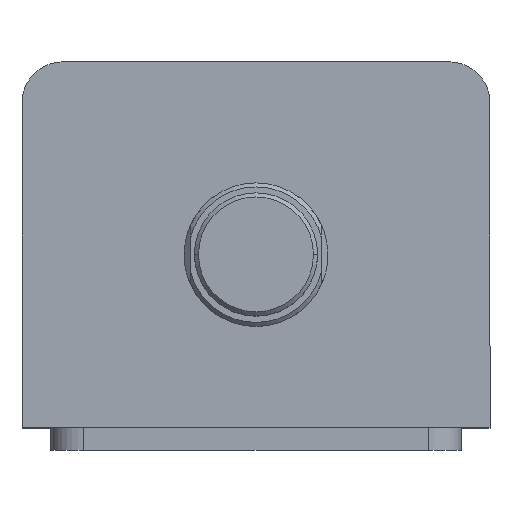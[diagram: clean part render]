
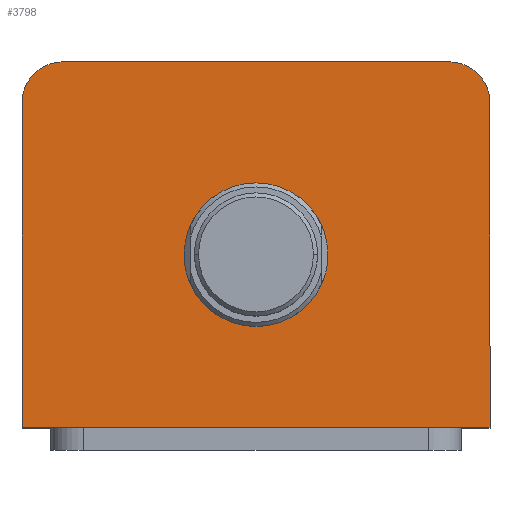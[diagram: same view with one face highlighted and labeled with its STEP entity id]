
A CAD part, top view. The second image highlights one B-rep face of the part: STEP entity #3798.
In plain terms, the highlighted planar face has unit normal (0, 0, 1).
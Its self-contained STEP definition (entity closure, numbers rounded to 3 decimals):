
#350 = CARTESIAN_POINT ( 'NONE',  ( 57., 34.5, 152. ) ) ;
#353 = CARTESIAN_POINT ( 'NONE',  ( -57., 34.5, 152. ) ) ;
#858 = ORIENTED_EDGE ( 'NONE', *, *, #3613, .F. ) ;
#859 = ORIENTED_EDGE ( 'NONE', *, *, #3611, .F. ) ;
#860 = ORIENTED_EDGE ( 'NONE', *, *, #3639, .T. ) ;
#861 = ORIENTED_EDGE ( 'NONE', *, *, #3677, .T. ) ;
#862 = ORIENTED_EDGE ( 'NONE', *, *, #3682, .T. ) ;
#863 = ORIENTED_EDGE ( 'NONE', *, *, #3624, .T. ) ;
#864 = ORIENTED_EDGE ( 'NONE', *, *, #3659, .T. ) ;
#865 = ORIENTED_EDGE ( 'NONE', *, *, #3667, .T. ) ;
#1110 = PLANE ( 'NONE',  #1525 ) ;
#1113 = CARTESIAN_POINT ( 'NONE',  ( 0., 0., 152. ) ) ;
#1123 = DIRECTION ( 'NONE',  ( 0., 0., 1. ) ) ;
#1125 = DIRECTION ( 'NONE',  ( 1., 0., 0. ) ) ;
#1241 = CARTESIAN_POINT ( 'NONE',  ( 47., 34.5, 152. ) ) ;
#1525 = AXIS2_PLACEMENT_3D ( 'NONE', #1113, #1123, #1125 ) ;
#1589 = AXIS2_PLACEMENT_3D ( 'NONE', #1881, #1882, #1883 ) ;
#1597 = AXIS2_PLACEMENT_3D ( 'NONE', #1241, #2474, #1856 ) ;
#1681 = AXIS2_PLACEMENT_3D ( 'NONE', #2455, #2456, #2457 ) ;
#1682 = AXIS2_PLACEMENT_3D ( 'NONE', #2458, #2459, #2460 ) ;
#1856 = DIRECTION ( 'NONE',  ( 1., 0., 0. ) ) ;
#1881 = CARTESIAN_POINT ( 'NONE',  ( -47., 34.5, 152. ) ) ;
#1882 = DIRECTION ( 'NONE',  ( 0., 0., 1. ) ) ;
#1883 = DIRECTION ( 'NONE',  ( 1., 0., 0. ) ) ;
#1896 = CARTESIAN_POINT ( 'NONE',  ( -57., 44.5, 152. ) ) ;
#1897 = DIRECTION ( 'NONE',  ( 0., -1., 0. ) ) ;
#1966 = CARTESIAN_POINT ( 'NONE',  ( -57., -44.5, 152. ) ) ;
#1976 = DIRECTION ( 'NONE',  ( 1., 0., 0. ) ) ;
#2009 = CARTESIAN_POINT ( 'NONE',  ( -57., 44.5, 152. ) ) ;
#2010 = DIRECTION ( 'NONE',  ( -1., 0., 0. ) ) ;
#2048 = CARTESIAN_POINT ( 'NONE',  ( 57., 44.5, 152. ) ) ;
#2049 = DIRECTION ( 'NONE',  ( 0., 1., 0. ) ) ;
#2104 = CARTESIAN_POINT ( 'NONE',  ( -17.5, -2.5, 152. ) ) ;
#2105 = CARTESIAN_POINT ( 'NONE',  ( -57., -44.5, 152. ) ) ;
#2106 = CARTESIAN_POINT ( 'NONE',  ( 17.5, -2.5, 152. ) ) ;
#2108 = CARTESIAN_POINT ( 'NONE',  ( 57., -44.5, 152. ) ) ;
#2122 = CARTESIAN_POINT ( 'NONE',  ( 47., 44.5, 152. ) ) ;
#2125 = CARTESIAN_POINT ( 'NONE',  ( -47., 44.5, 152. ) ) ;
#2231 = VERTEX_POINT ( 'NONE', #350 ) ;
#2234 = VERTEX_POINT ( 'NONE', #353 ) ;
#2254 = EDGE_LOOP ( 'NONE', ( #858, #859 ) ) ;
#2259 = EDGE_LOOP ( 'NONE', ( #860, #861, #862, #863, #864, #865 ) ) ;
#2455 = CARTESIAN_POINT ( 'NONE',  ( 0., -2.5, 152. ) ) ;
#2456 = DIRECTION ( 'NONE',  ( 0., 0., 1. ) ) ;
#2457 = DIRECTION ( 'NONE',  ( 1., 0., 0. ) ) ;
#2458 = CARTESIAN_POINT ( 'NONE',  ( 0., -2.5, 152. ) ) ;
#2459 = DIRECTION ( 'NONE',  ( 0., 0., 1. ) ) ;
#2460 = DIRECTION ( 'NONE',  ( 1., 0., 0. ) ) ;
#2474 = DIRECTION ( 'NONE',  ( 0., 0., 1. ) ) ;
#2604 = CIRCLE ( 'NONE', #1681, 17.5 ) ;
#2607 = CIRCLE ( 'NONE', #1682, 17.5 ) ;
#2738 = VERTEX_POINT ( 'NONE', #2104 ) ;
#2739 = VERTEX_POINT ( 'NONE', #2105 ) ;
#2740 = VERTEX_POINT ( 'NONE', #2106 ) ;
#2742 = VERTEX_POINT ( 'NONE', #2108 ) ;
#2756 = VERTEX_POINT ( 'NONE', #2122 ) ;
#2759 = VERTEX_POINT ( 'NONE', #2125 ) ;
#3243 = LINE ( 'NONE', #1966, #3244 ) ;
#3244 = VECTOR ( 'NONE', #1976, 1000. ) ;
#3269 = LINE ( 'NONE', #2009, #3272 ) ;
#3272 = VECTOR ( 'NONE', #2010, 1000. ) ;
#3308 = LINE ( 'NONE', #2048, #3311 ) ;
#3311 = VECTOR ( 'NONE', #2049, 1000. ) ;
#3315 = CIRCLE ( 'NONE', #1597, 10. ) ;
#3330 = CIRCLE ( 'NONE', #1589, 10. ) ;
#3337 = LINE ( 'NONE', #1896, #3340 ) ;
#3340 = VECTOR ( 'NONE', #1897, 1000. ) ;
#3513 = FACE_BOUND ( 'NONE', #2254, .T. ) ;
#3516 = FACE_OUTER_BOUND ( 'NONE', #2259, .T. ) ;
#3611 = EDGE_CURVE ( 'NONE', #2738, #2740, #2604, .T. ) ;
#3613 = EDGE_CURVE ( 'NONE', #2740, #2738, #2607, .T. ) ;
#3624 = EDGE_CURVE ( 'NONE', #2739, #2742, #3243, .T. ) ;
#3639 = EDGE_CURVE ( 'NONE', #2756, #2759, #3269, .T. ) ;
#3659 = EDGE_CURVE ( 'NONE', #2742, #2231, #3308, .T. ) ;
#3667 = EDGE_CURVE ( 'NONE', #2231, #2756, #3315, .T. ) ;
#3677 = EDGE_CURVE ( 'NONE', #2759, #2234, #3330, .T. ) ;
#3682 = EDGE_CURVE ( 'NONE', #2234, #2739, #3337, .T. ) ;
#3798 = ADVANCED_FACE ( 'NONE', ( #3513, #3516 ), #1110, .T. ) ;
